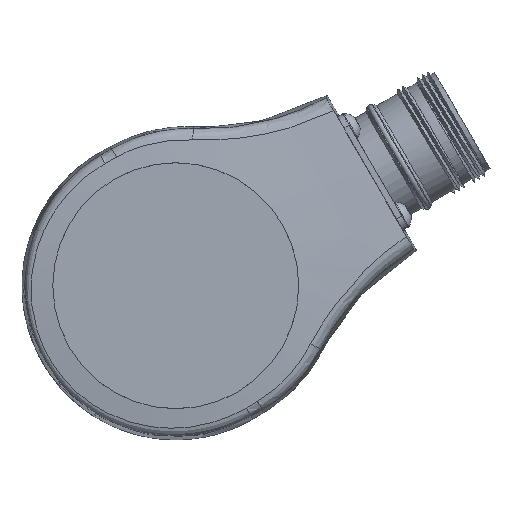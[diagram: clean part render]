
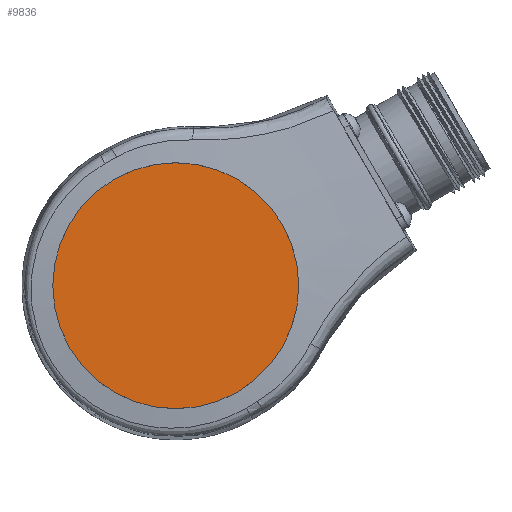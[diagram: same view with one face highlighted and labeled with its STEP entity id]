
A CAD part, top view. The second image highlights one B-rep face of the part: STEP entity #9836.
In plain terms, the highlighted planar face has unit normal (0, 0, 1).
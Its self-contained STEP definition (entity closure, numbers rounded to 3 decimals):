
#1782=ORIENTED_EDGE('',*,*,#3051,.T.);
#3051=EDGE_CURVE('',#3837,#3837,#4399,.T.);
#3837=VERTEX_POINT('',#13912);
#4399=CIRCLE('',#10506,23.794);
#4959=EDGE_LOOP('',(#1782));
#5720=FACE_BOUND('',#4959,.T.);
#6186=PLANE('',#10514);
#9836=ADVANCED_FACE('',(#5720),#6186,.T.);
#10506=AXIS2_PLACEMENT_3D('',#13911,#11796,#11797);
#10514=AXIS2_PLACEMENT_3D('',#15575,#11812,#11813);
#11796=DIRECTION('',(0.,0.,1.));
#11797=DIRECTION('',(-0.5,0.866,0.));
#11812=DIRECTION('',(0.,0.,1.));
#11813=DIRECTION('',(-0.5,0.866,0.));
#13911=CARTESIAN_POINT('',(0.,0.,42.));
#13912=CARTESIAN_POINT('',(-11.897,20.606,42.));
#15575=CARTESIAN_POINT('',(0.,0.,42.));
